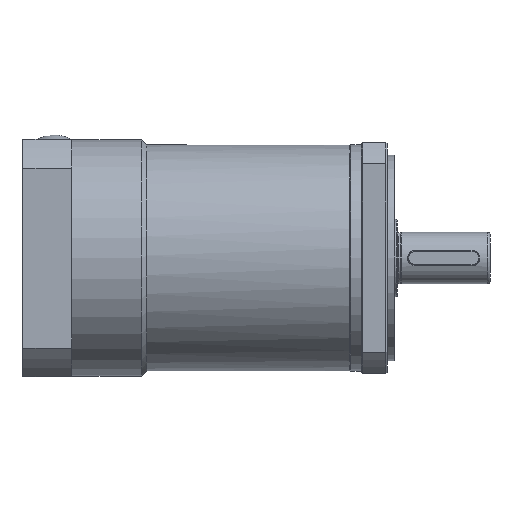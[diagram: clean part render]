
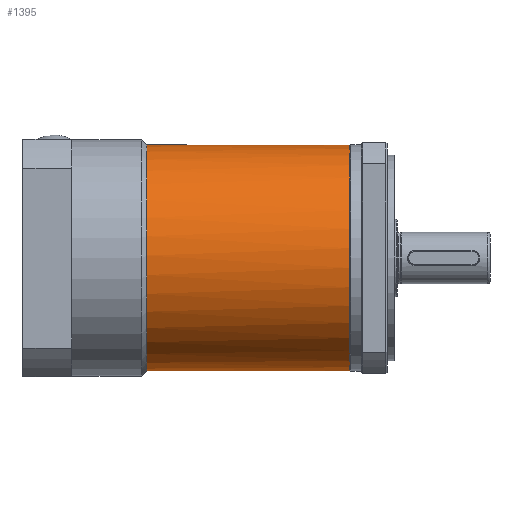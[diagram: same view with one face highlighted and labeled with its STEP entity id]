
A CAD part, front view. The second image highlights one B-rep face of the part: STEP entity #1395.
In plain terms, the highlighted cylindrical face has radius 44 mm (diameter 88 mm), a full revolution.
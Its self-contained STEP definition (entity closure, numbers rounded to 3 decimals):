
#1287=CYLINDRICAL_SURFACE('',#5821,44.);
#1395=ADVANCED_FACE('',(#1905,#1906),#1287,.T.);
#1905=FACE_BOUND('',#2218,.T.);
#1906=FACE_BOUND('',#2219,.T.);
#2218=EDGE_LOOP('',(#2835));
#2219=EDGE_LOOP('',(#2836));
#2835=ORIENTED_EDGE('',*,*,#4748,.T.);
#2836=ORIENTED_EDGE('',*,*,#4749,.F.);
#4228=VERTEX_POINT('',#8376);
#4229=VERTEX_POINT('',#8379);
#4748=EDGE_CURVE('',#4228,#4228,#5458,.T.);
#4749=EDGE_CURVE('',#4229,#4229,#5459,.T.);
#5458=CIRCLE('',#5818,44.);
#5459=CIRCLE('',#5820,44.);
#5818=AXIS2_PLACEMENT_3D('',#8375,#6632,#6633);
#5820=AXIS2_PLACEMENT_3D('',#8378,#6636,#6637);
#5821=AXIS2_PLACEMENT_3D('',#8380,#6638,#6639);
#6632=DIRECTION('',(-1.,0.,0.));
#6633=DIRECTION('',(0.,0.259,0.966));
#6636=DIRECTION('',(-1.,0.,0.));
#6637=DIRECTION('',(0.,0.,1.));
#6638=DIRECTION('',(-1.,0.,0.));
#6639=DIRECTION('',(0.,0.259,0.966));
#8375=CARTESIAN_POINT('',(127.5,0.,0.));
#8376=CARTESIAN_POINT('',(127.5,11.388,42.501));
#8378=CARTESIAN_POINT('',(48.5,0.,0.));
#8379=CARTESIAN_POINT('',(48.5,0.,44.));
#8380=CARTESIAN_POINT('',(90.,0.,0.));
